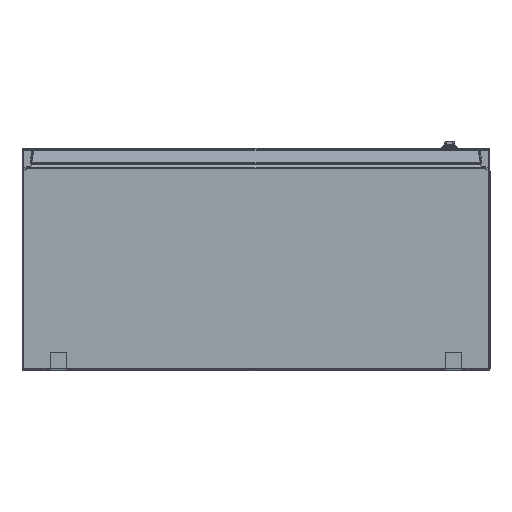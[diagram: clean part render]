
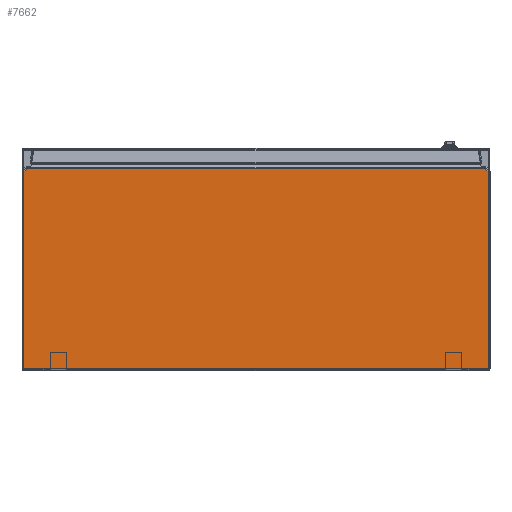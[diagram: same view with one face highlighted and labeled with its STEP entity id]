
A CAD part, front view. The second image highlights one B-rep face of the part: STEP entity #7662.
In plain terms, the highlighted planar face has unit normal (0, -1, 0).
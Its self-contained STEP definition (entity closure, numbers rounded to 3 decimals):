
#2566 = CARTESIAN_POINT ( 'NONE',  ( 400., -797.5, -380. ) ) ;
#2948 = VECTOR ( 'NONE', #29186, 1000. ) ;
#3472 = LINE ( 'NONE', #15625, #14400 ) ;
#4074 = VECTOR ( 'NONE', #9539, 1000. ) ;
#4407 = AXIS2_PLACEMENT_3D ( 'NONE', #2566, #14704, #26874 ) ;
#4843 = ORIENTED_EDGE ( 'NONE', *, *, #26473, .T. ) ;
#4857 = LINE ( 'NONE', #17027, #2948 ) ;
#4913 = VERTEX_POINT ( 'NONE', #21118 ) ;
#5018 = EDGE_CURVE ( 'NONE', #10828, #11908, #24694, .T. ) ;
#5916 = VERTEX_POINT ( 'NONE', #29901 ) ;
#5989 = LINE ( 'NONE', #18161, #32409 ) ;
#6454 = CARTESIAN_POINT ( 'NONE',  ( -397., -797.5, -39.562 ) ) ;
#6934 = VECTOR ( 'NONE', #38411, 1000. ) ;
#7662 = ADVANCED_FACE ( 'NONE', ( #17703 ), #29852, .T. ) ;
#8391 = CARTESIAN_POINT ( 'NONE',  ( 397., -797.5, -377. ) ) ;
#9539 = DIRECTION ( 'NONE',  ( -0.819, 0., 0.574 ) ) ;
#10480 = LINE ( 'NONE', #22656, #12604 ) ;
#10828 = VERTEX_POINT ( 'NONE', #17840 ) ;
#11908 = VERTEX_POINT ( 'NONE', #19071 ) ;
#12604 = VECTOR ( 'NONE', #34820, 1000. ) ;
#14088 = LINE ( 'NONE', #26250, #6934 ) ;
#14122 = VERTEX_POINT ( 'NONE', #8391 ) ;
#14400 = VECTOR ( 'NONE', #27787, 1000. ) ;
#14704 = DIRECTION ( 'NONE',  ( 0., -1., 0. ) ) ;
#14799 = EDGE_CURVE ( 'NONE', #11908, #5916, #4857, .T. ) ;
#15625 = CARTESIAN_POINT ( 'NONE',  ( -397., -797.5, -39.562 ) ) ;
#16182 = ORIENTED_EDGE ( 'NONE', *, *, #31573, .T. ) ;
#17027 = CARTESIAN_POINT ( 'NONE',  ( 400., -797.5, -35. ) ) ;
#17512 = ORIENTED_EDGE ( 'NONE', *, *, #5018, .T. ) ;
#17703 = FACE_OUTER_BOUND ( 'NONE', #34683, .T. ) ;
#17840 = CARTESIAN_POINT ( 'NONE',  ( 397., -797.5, -39.562 ) ) ;
#18161 = CARTESIAN_POINT ( 'NONE',  ( 400., -797.5, -377. ) ) ;
#19071 = CARTESIAN_POINT ( 'NONE',  ( 390.485, -797.5, -35. ) ) ;
#19476 = ORIENTED_EDGE ( 'NONE', *, *, #22581, .T. ) ;
#21118 = CARTESIAN_POINT ( 'NONE',  ( -397., -797.5, -377. ) ) ;
#22581 = EDGE_CURVE ( 'NONE', #14122, #10828, #10480, .T. ) ;
#22656 = CARTESIAN_POINT ( 'NONE',  ( 397., -797.5, -380. ) ) ;
#23772 = EDGE_CURVE ( 'NONE', #33937, #4913, #14088, .T. ) ;
#24694 = LINE ( 'NONE', #36850, #4074 ) ;
#25419 = ORIENTED_EDGE ( 'NONE', *, *, #14799, .T. ) ;
#26250 = CARTESIAN_POINT ( 'NONE',  ( -397., -797.5, -380. ) ) ;
#26473 = EDGE_CURVE ( 'NONE', #5916, #33937, #3472, .T. ) ;
#26874 = DIRECTION ( 'NONE',  ( 1., 0., 0. ) ) ;
#27787 = DIRECTION ( 'NONE',  ( -0.819, 0., -0.574 ) ) ;
#29186 = DIRECTION ( 'NONE',  ( -1., 0., 0. ) ) ;
#29852 = PLANE ( 'NONE',  #4407 ) ;
#29901 = CARTESIAN_POINT ( 'NONE',  ( -390.485, -797.5, -35. ) ) ;
#30309 = DIRECTION ( 'NONE',  ( 1., 0., 0. ) ) ;
#31573 = EDGE_CURVE ( 'NONE', #4913, #14122, #5989, .T. ) ;
#32409 = VECTOR ( 'NONE', #30309, 1000. ) ;
#33937 = VERTEX_POINT ( 'NONE', #6454 ) ;
#34683 = EDGE_LOOP ( 'NONE', ( #19476, #17512, #25419, #4843, #36114, #16182 ) ) ;
#34820 = DIRECTION ( 'NONE',  ( 0., 0., 1. ) ) ;
#36114 = ORIENTED_EDGE ( 'NONE', *, *, #23772, .T. ) ;
#36850 = CARTESIAN_POINT ( 'NONE',  ( 393.995, -797.5, -37.457 ) ) ;
#38411 = DIRECTION ( 'NONE',  ( 0., 0., -1. ) ) ;
